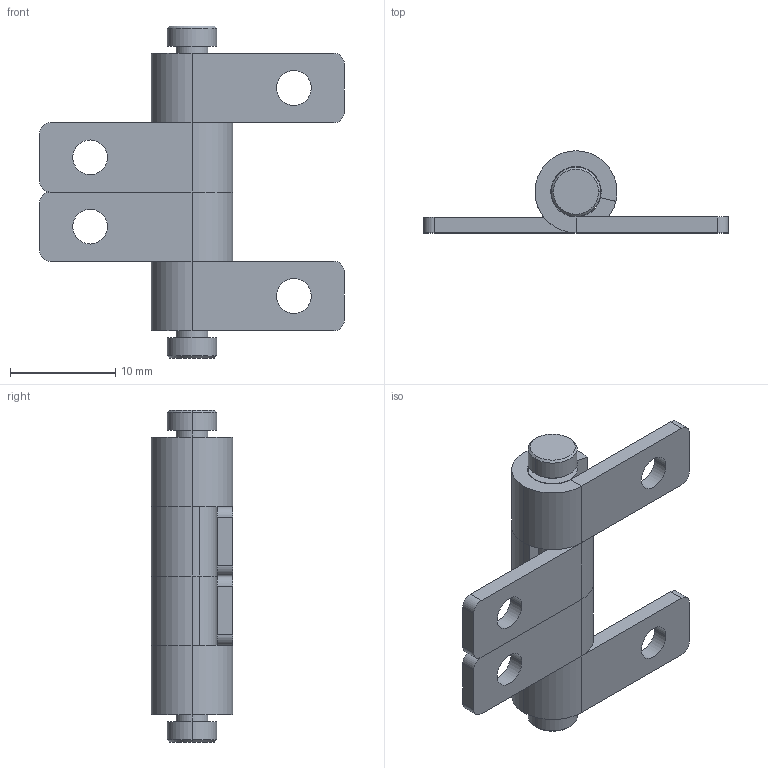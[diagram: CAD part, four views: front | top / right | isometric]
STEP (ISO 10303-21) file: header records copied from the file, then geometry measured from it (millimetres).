
FILE_DESCRIPTION (( 'STEP AP203' ), '1' );
FILE_NAME ('XG11-050-2.STEP', '2025-04-16T02:46:15', ( '微软用户' ), ( '微软中国' ), 'SwSTEP 2.0', 'SolidWorks 2024', '' );
FILE_SCHEMA (( 'CONFIG_CONTROL_DESIGN' ));
Length unit declared in the file: millimetre
Products named in the file (1): XG11-050-2
Bounding box: 29 x 7.8 x 31.6 mm (x, y, z)
Volume: 1668.5 mm3; surface area: 2575.2 mm2
Topology: 6 solids, 6 shells, 96 faces, 220 edges, 140 vertices
Faces by surface type: cylinder 52, plane 40, cone 4
Entity records: 2815 total; most frequent: DIRECTION 522, CARTESIAN_POINT 457, ORIENTED_EDGE 440, EDGE_CURVE 220, AXIS2_PLACEMENT_3D 205, VERTEX_POINT 140, VECTOR 112, LINE 112
